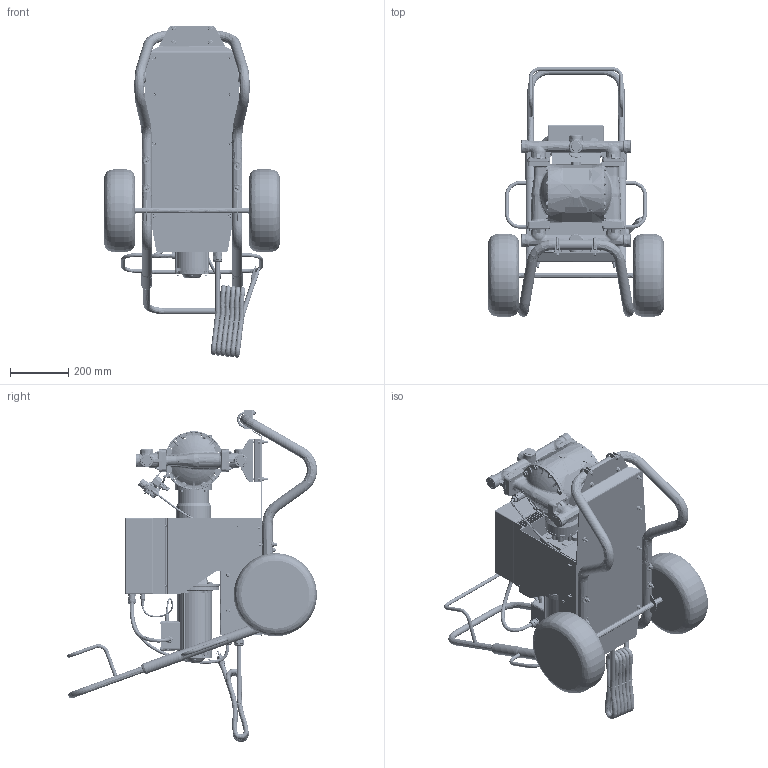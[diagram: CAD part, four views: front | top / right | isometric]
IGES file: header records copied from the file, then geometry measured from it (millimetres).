
Start section:  PTC IGES file: 24y388-en-e.igs
Global section: file name: 24y388-en-e.igs; native system: Creo Parametric by PTC Inc.; preprocessor: 2019030; author: qusrh3; organization: Unknown; date: 20191231.182757; units: inch
Bounding box: 599.9 x 855.31 x 1135.84 mm (x, y, z)
Surface area: 4149442.4 mm2 (no closed solid volume)
Topology: 0 solids, 0 shells, 10826 faces, 47344 edges, 46800 vertices
Faces by surface type: bspline 5048, revolution 4387, extrusion 1391
